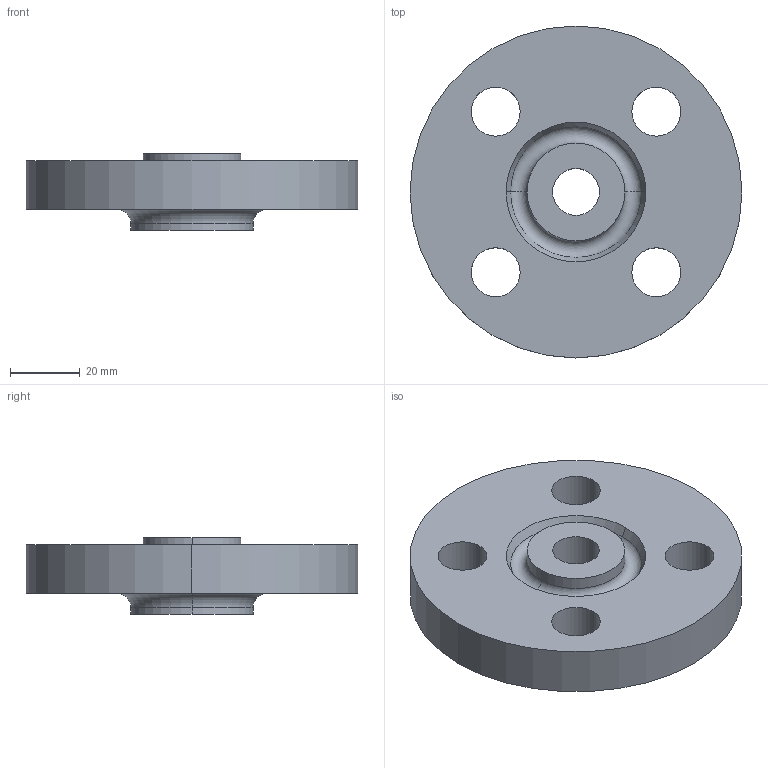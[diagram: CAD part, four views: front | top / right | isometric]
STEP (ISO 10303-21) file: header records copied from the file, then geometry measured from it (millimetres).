
FILE_DESCRIPTION (( 'STEP AP214' ), '1' );
FILE_NAME ('PN40 DN15 Type 13 - Type H Face.STEP', '2018-12-29T14:31:25', ( '' ), ( '' ), 'SwSTEP 2.0', 'SolidWorks 2019', '' );
FILE_SCHEMA (( 'AUTOMOTIVE_DESIGN' ));
Length unit declared in the file: millimetre
Products named in the file (1): PN40 DN15 Type 13 - Type H Face
Bounding box: 95 x 95 x 22 mm (x, y, z)
Volume: 93000 mm3; surface area: 21405.1 mm2
Topology: 1 solids, 1 shells, 26 faces, 60 edges, 38 vertices
Faces by surface type: cylinder 16, torus 4, plane 4, cone 2
Entity records: 812 total; most frequent: DIRECTION 156, CARTESIAN_POINT 125, ORIENTED_EDGE 120, AXIS2_PLACEMENT_3D 69, EDGE_CURVE 60, CIRCLE 42, VERTEX_POINT 38, EDGE_LOOP 38
